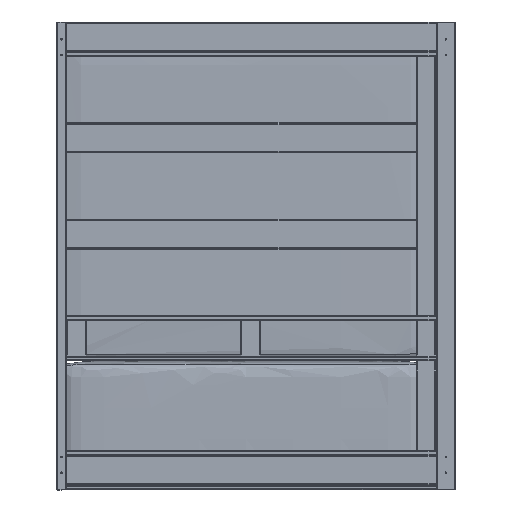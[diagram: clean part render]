
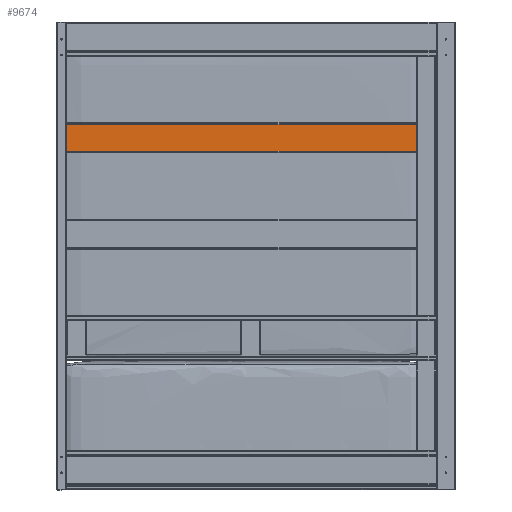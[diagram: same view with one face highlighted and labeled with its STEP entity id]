
A CAD part, front view. The second image highlights one B-rep face of the part: STEP entity #9674.
In plain terms, the highlighted planar face has unit normal (0, -1, 0) as drawn and (1, 0, 0) by its records, which use the part's own axes.
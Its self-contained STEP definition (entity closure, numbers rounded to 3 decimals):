
#575=PLANE('',#11213);
#1370=LINE('',#21560,#2242);
#1371=LINE('',#21562,#2243);
#1372=LINE('',#21564,#2244);
#1373=LINE('',#21565,#2245);
#2242=VECTOR('',#13881,10.);
#2243=VECTOR('',#13882,10.);
#2244=VECTOR('',#13883,10.);
#2245=VECTOR('',#13884,10.);
#3510=FACE_OUTER_BOUND('',#4104,.T.);
#4104=EDGE_LOOP('',(#8842,#8843,#8844,#8845));
#5001=VERTEX_POINT('',#21558);
#5002=VERTEX_POINT('',#21559);
#5003=VERTEX_POINT('',#21561);
#5004=VERTEX_POINT('',#21563);
#6303=EDGE_CURVE('',#5001,#5002,#1370,.T.);
#6304=EDGE_CURVE('',#5003,#5002,#1371,.T.);
#6305=EDGE_CURVE('',#5004,#5003,#1372,.T.);
#6306=EDGE_CURVE('',#5004,#5001,#1373,.T.);
#8842=ORIENTED_EDGE('',*,*,#6303,.T.);
#8843=ORIENTED_EDGE('',*,*,#6304,.F.);
#8844=ORIENTED_EDGE('',*,*,#6305,.F.);
#8845=ORIENTED_EDGE('',*,*,#6306,.T.);
#9674=ADVANCED_FACE('',(#3510),#575,.T.);
#11213=AXIS2_PLACEMENT_3D('',#21557,#13879,#13880);
#13879=DIRECTION('center_axis',(1.,0.,0.));
#13880=DIRECTION('ref_axis',(0.,0.,-1.));
#13881=DIRECTION('',(0.,-1.,0.));
#13882=DIRECTION('',(0.,0.,1.));
#13883=DIRECTION('',(0.,-1.,0.));
#13884=DIRECTION('',(0.,0.,1.));
#21557=CARTESIAN_POINT('Origin',(5.,27.75,0.));
#21558=CARTESIAN_POINT('',(5.,27.75,750.));
#21559=CARTESIAN_POINT('',(5.,-27.75,750.));
#21560=CARTESIAN_POINT('',(5.,13.875,750.));
#21561=CARTESIAN_POINT('',(5.,-27.75,40.));
#21562=CARTESIAN_POINT('',(5.,-27.75,0.));
#21563=CARTESIAN_POINT('',(5.,27.75,40.));
#21564=CARTESIAN_POINT('',(5.,13.875,40.));
#21565=CARTESIAN_POINT('',(5.,27.75,0.));
